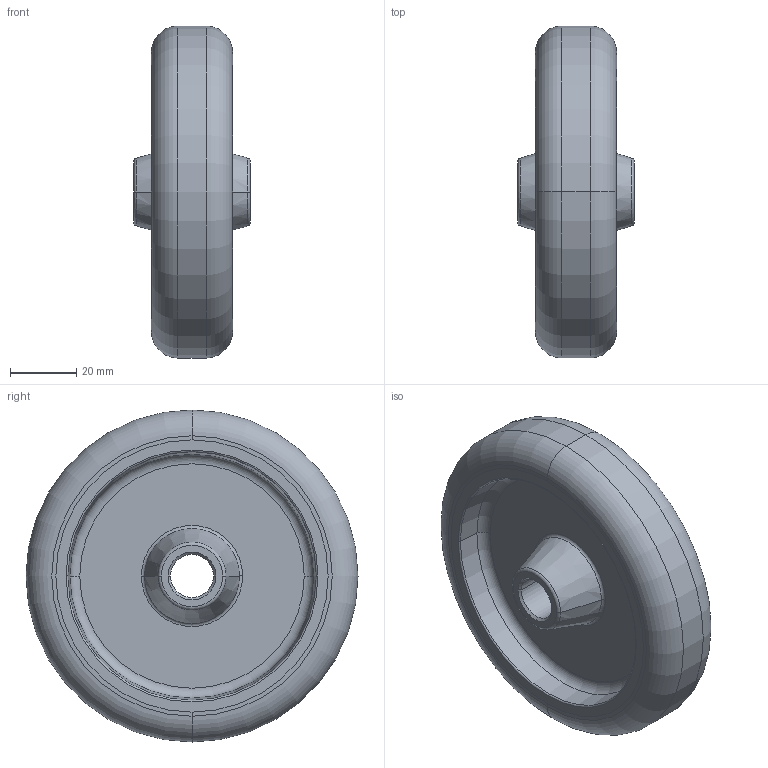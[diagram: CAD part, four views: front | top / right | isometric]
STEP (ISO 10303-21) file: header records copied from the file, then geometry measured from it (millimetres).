
FILE_DESCRIPTION((''),'2;1');
FILE_NAME('PRT0006','2025-09-25T11:12:37',('Administrator'),(''),'CREO PARAMETRIC BY PTC INC, 2022124','CREO PARAMETRIC BY PTC INC, 2022124','');
FILE_SCHEMA(('AUTOMOTIVE_DESIGN { 1 0 10303 214 1 1 1 1 }'));
Length unit declared in the file: millimetre
Products named in the file (1): PRT0006
Bounding box: 35 x 100 x 100 mm (x, y, z)
Surface area: 27351.3 mm2 (no closed solid volume)
Topology: 0 solids, 2 shells, 46 faces, 100 edges, 60 vertices
Faces by surface type: torus 20, cone 16, plane 6, cylinder 4
Entity records: 1756 total; most frequent: DIRECTION 295, CARTESIAN_POINT 220, ORIENTED_EDGE 188, AXIS2_PLACEMENT_3D 136, EDGE_CURVE 100, CIRCLE 80, VERTEX_POINT 60, EDGE_LOOP 52
